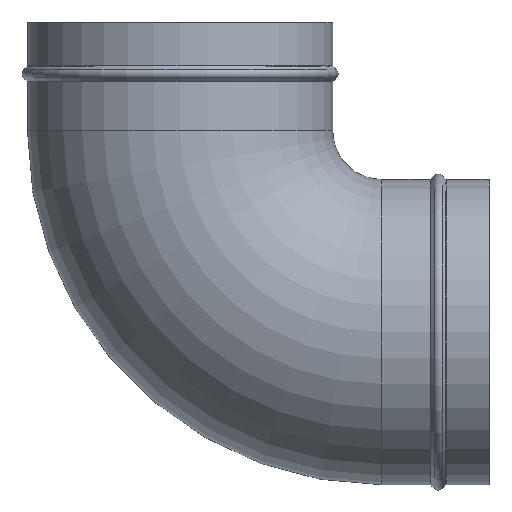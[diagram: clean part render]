
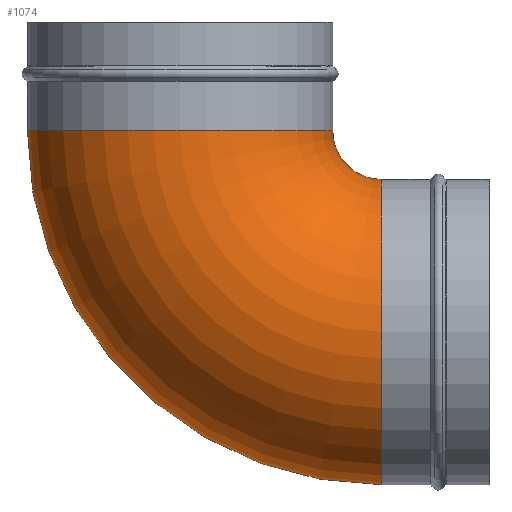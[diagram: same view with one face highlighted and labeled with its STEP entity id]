
A CAD part, top view. The second image highlights one B-rep face of the part: STEP entity #1074.
In plain terms, the highlighted toroidal (fillet/blend) face has major radius 135 mm and minor radius 102.25 mm.
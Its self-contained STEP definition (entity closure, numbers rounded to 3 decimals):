
#188=CARTESIAN_POINT('',(135.,0.,0.));
#189=DIRECTION('',(1.,0.,0.));
#190=DIRECTION('',(0.,1.,0.));
#191=AXIS2_PLACEMENT_3D('',#188,#189,#190);
#273=CARTESIAN_POINT('',(135.,135.,0.));
#274=DIRECTION('',(0.,0.,1.));
#275=DIRECTION('',(-1.,0.,0.));
#276=AXIS2_PLACEMENT_3D('',#273,#274,#275);
#373=CARTESIAN_POINT('',(0.,135.,0.));
#374=DIRECTION('',(0.,-1.,0.));
#375=DIRECTION('',(1.,0.,0.));
#376=AXIS2_PLACEMENT_3D('',#373,#374,#375);
#381=CARTESIAN_POINT('',(135.,135.,0.));
#382=DIRECTION('',(0.,0.,1.));
#383=DIRECTION('',(-1.,0.,0.));
#384=AXIS2_PLACEMENT_3D('',#381,#382,#383);
#673=CARTESIAN_POINT('',(102.25,135.,0.));
#674=CARTESIAN_POINT('',(-102.25,135.,0.));
#675=VERTEX_POINT('',#673);
#676=VERTEX_POINT('',#674);
#681=CARTESIAN_POINT('',(135.,102.25,0.));
#682=CARTESIAN_POINT('',(135.,-102.25,0.));
#683=VERTEX_POINT('',#681);
#684=VERTEX_POINT('',#682);
#1063=CARTESIAN_POINT('',(135.,135.,0.));
#1064=DIRECTION('',(0.,0.,1.));
#1065=DIRECTION('',(1.,0.,0.));
#1066=AXIS2_PLACEMENT_3D('',#1063,#1064,#1065);
#1067=TOROIDAL_SURFACE('',#1066,135.,102.25);
#1068=ORIENTED_EDGE('',*,*,#1043,.F.);
#1069=ORIENTED_EDGE('',*,*,#971,.T.);
#1070=ORIENTED_EDGE('',*,*,#914,.T.);
#1071=ORIENTED_EDGE('',*,*,#968,.F.);
#1072=EDGE_LOOP('',(#1068,#1069,#1070,#1071));
#1073=FACE_OUTER_BOUND('',#1072,.F.);
#192=CIRCLE('',#191,102.25);
#277=CIRCLE('',#276,237.25);
#377=CIRCLE('',#376,102.25);
#385=CIRCLE('',#384,32.75);
#914=EDGE_CURVE('',#683,#684,#192,.T.);
#968=EDGE_CURVE('',#676,#684,#277,.T.);
#971=EDGE_CURVE('',#675,#683,#385,.T.);
#1043=EDGE_CURVE('',#675,#676,#377,.T.);
#1074=ADVANCED_FACE('',(#1073),#1067,.T.);
